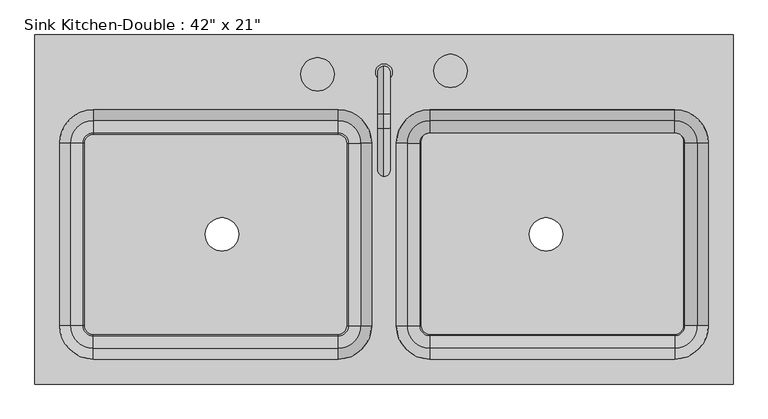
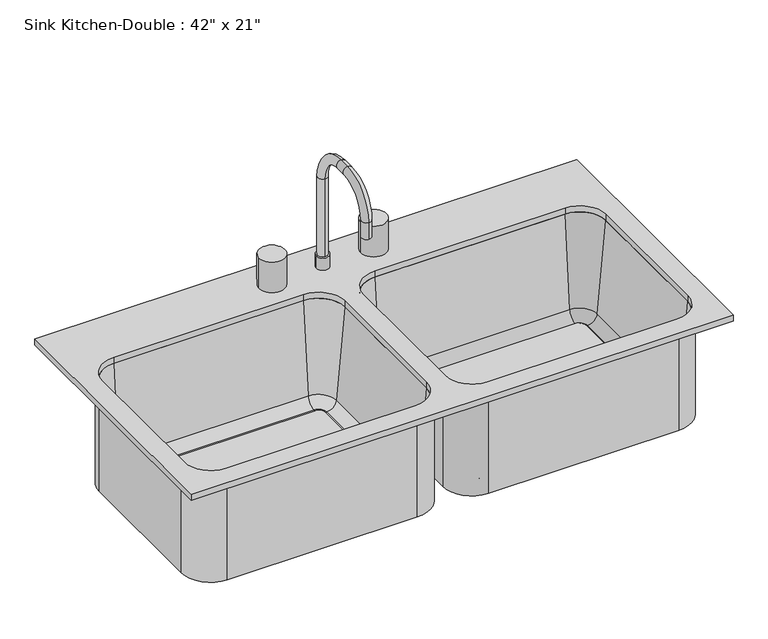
"""IFC4 building model written with IfcOpenShell, lengths in millimetres: flow terminal geometry."""

from ifc_helpers import new_model, si_unit, point, frame, frame_2d, origin, place, context, project, spatial, polyline, circle_curve, ellipse_curve, trimmed, segment, composite_curve, outline, extrude, source, transform, mapped, element, save
from ifc_brep_helpers import plane_surface, cylinder_surface, revolved_surface, advanced_brep


def flow_terminal_88eaddf2(model_context):
    return source(origin(), model_context, "Body", "SolidModel", [
        extrude(outline(composite_curve([segment(trimmed(circle_curve(frame_2d((460.1892406, 106.5338193)), 12.7), [point((460.1892406, 119.2338193))], [point((472.8892406, 106.5338193))], False, "CARTESIAN"), True, "CONTINUOUS"), segment(polyline([(472.8892406, 106.5338193), (472.8892406, -175.4545989)]), True, "CONTINUOUS"), segment(trimmed(circle_curve(frame_2d((460.1892406, -175.4545989)), 12.7), [point((472.8892406, -175.4545989))], [point((460.1892406, -188.1545989))], False, "CARTESIAN"), True, "CONTINUOUS"), segment(polyline([(460.1892406, -188.1545989), (85.5392406, -188.1545989)]), True, "CONTINUOUS"), segment(trimmed(circle_curve(frame_2d((85.5392406, -175.4545989)), 12.7), [point((85.5392406, -188.1545989))], [point((72.8392406, -175.4545989))], False, "CARTESIAN"), True, "CONTINUOUS"), segment(polyline([(72.8392406, -175.4545989), (72.8392406, 106.5338193)]), True, "CONTINUOUS"), segment(trimmed(circle_curve(frame_2d((85.5392406, 106.5338193)), 12.7), [point((72.8392406, 106.5338193))], [point((85.5392406, 119.2338193))], False, "CARTESIAN"), True, "CONTINUOUS"), segment(polyline([(85.5392406, 119.2338193), (460.1892406, 119.2338193)]), True, "CONTINUOUS")], self_intersect=False), holes=[composite_curve([segment(trimmed(circle_curve(frame_2d((263.3392406, -35.7545989)), 25.4), [point((237.9392406, -35.7545989))], [point((288.7392406, -35.7545989))], True, "CARTESIAN"), True, "CONTINUOUS"), segment(trimmed(circle_curve(frame_2d((263.3392406, -35.7545989)), 25.4), [point((288.7392406, -35.7545989))], [point((237.9392406, -35.7545989))], True, "CARTESIAN"), True, "CONTINUOUS")], self_intersect=False)]), frame((0.0, 0.0, 698.5), z_axis=(0.0, 0.0, 1.0), x_axis=(1.0, 0.0, 0.0)), (0.0, 0.0, 1.0), 9.525),
        advanced_brep(
        [(34.7392406, 103.9454011, 914.4), (85.5392406, 154.7454011, 914.4), (85.5392406, 161.0954011, 914.4), (28.3892406, 103.9454011, 914.4), (51.2733134, 103.9454011, 725.4146831), (85.5392406, 138.2113283, 725.4146831), (70.2508224, 103.9454011, 708.025), (85.5392406, 119.2338193, 708.025), (72.8392406, 103.9454011, 708.025), (85.5392406, 116.6454011, 708.025), (72.8392406, 103.9454011, 698.5), (85.5392406, 116.6454011, 698.5), (28.3892406, 103.9454011, 698.5), (85.5392406, 161.0954011, 698.5), (28.3892406, -175.4545989, 914.4), (34.7392406, -175.4545989, 914.4), (51.2733134, -175.4545989, 725.4146831), (70.2508224, -175.4545989, 708.025), (72.8392406, -175.4545989, 708.025), (72.8392406, -175.4545989, 698.5), (28.3892406, -175.4545989, 698.5), (85.5392406, -226.2545989, 914.4), (85.5392406, -232.6045989, 914.4), (85.5392406, -209.7205261, 725.4146831), (85.5392406, -190.7430171, 708.025), (85.5392406, -188.1545989, 708.025), (85.5392406, -188.1545989, 698.5), (85.5392406, -232.6045989, 698.5), (460.1892406, -232.6045989, 914.4), (460.1892406, -226.2545989, 914.4), (460.1892406, -209.7205261, 725.4146831), (460.1892406, -190.7430171, 708.025), (460.1892406, -188.1545989, 708.025), (460.1892406, -188.1545989, 698.5), (460.1892406, -232.6045989, 698.5), (510.9892406, -175.4545989, 914.4), (517.3392406, -175.4545989, 914.4), (494.4551678, -175.4545989, 725.4146831), (475.4776588, -175.4545989, 708.025), (472.8892406, -175.4545989, 708.025), (472.8892406, -175.4545989, 698.5), (517.3392406, -175.4545989, 698.5), (517.3392406, 103.9454011, 914.4), (510.9892406, 103.9454011, 914.4), (494.4551678, 103.9454011, 725.4146831), (475.4776588, 103.9454011, 708.025), (472.8892406, 103.9454011, 708.025), (472.8892406, 103.9454011, 698.5), (517.3392406, 103.9454011, 698.5), (460.1892406, 154.7454011, 914.4), (460.1892406, 161.0954011, 914.4), (460.1892406, 138.2113283, 725.4146831), (460.1892406, 119.2338193, 708.025), (460.1892406, 116.6454011, 708.025), (460.1892406, 116.6454011, 698.5), (460.1892406, 161.0954011, 698.5)],
        [
            (0, 1, circle_curve(frame((85.5392406, 103.9454011, 914.4), z_axis=(0.0, 0.0, -1.0), x_axis=(0.0, 1.0, 0.0)), 50.8)),
            (1, 2),
            (2, 3, circle_curve(frame((85.5392406, 103.9454011, 914.4), z_axis=(0.0, 0.0, 1.0), x_axis=(0.0, 1.0, 0.0)), 57.15)),
            (3, 0),
            (4, 5, circle_curve(frame((85.5392406, 103.9454011, 725.4146831), z_axis=(0.0, 0.0, -1.0), x_axis=(0.0, 1.0, 0.0)), 34.2659272)),
            (5, 1),
            (0, 4),
            (6, 7, circle_curve(frame((85.5392406, 103.9454011, 708.025), z_axis=(0.0, 0.0, -1.0), x_axis=(0.0, 1.0, 0.0)), 15.2884182)),
            (7, 5, circle_curve(frame((85.5392406, 119.2338193, 727.075), z_axis=(1.0, 0.0, 0.0), x_axis=(0.0, -1.0, 0.0)), 19.05)),
            (4, 6, circle_curve(frame((70.2508224, 103.9454011, 727.075), z_axis=(0.0, -1.0, 0.0), x_axis=(1.0, 0.0, 0.0)), 19.05)),
            (8, 9, circle_curve(frame((85.5392406, 103.9454011, 708.025), z_axis=(0.0, 0.0, -1.0), x_axis=(0.0, 1.0, 0.0)), 12.7)),
            (9, 7),
            (6, 8),
            (10, 11, circle_curve(frame((85.5392406, 103.9454011, 698.5), z_axis=(0.0, 0.0, -1.0), x_axis=(0.0, 1.0, 0.0)), 12.7)),
            (11, 9),
            (8, 10),
            (12, 13, circle_curve(frame((85.5392406, 103.9454011, 698.5), z_axis=(0.0, 0.0, -1.0), x_axis=(0.0, 1.0, 0.0)), 57.15)),
            (13, 11),
            (10, 12),
            (2, 13),
            (12, 3),
            (3, 14),
            (14, 15),
            (15, 0),
            (15, 16),
            (16, 4),
            (16, 17, circle_curve(frame((70.2508224, -175.4545989, 727.075), z_axis=(0.0, -1.0, 0.0), x_axis=(1.0, 0.0, 0.0)), 19.05)),
            (17, 6),
            (17, 18),
            (18, 8),
            (18, 19),
            (19, 10),
            (19, 20),
            (20, 12),
            (20, 14),
            (21, 15, circle_curve(frame((85.5392406, -175.4545989, 914.4), z_axis=(0.0, 0.0, -1.0), x_axis=(-1.0, 0.0, 0.0)), 50.8)),
            (14, 22, circle_curve(frame((85.5392406, -175.4545989, 914.4), z_axis=(0.0, 0.0, 1.0), x_axis=(-1.0, 0.0, 0.0)), 57.15)),
            (22, 21),
            (23, 16, circle_curve(frame((85.5392406, -175.4545989, 725.4146831), z_axis=(0.0, 0.0, -1.0), x_axis=(-1.0, 0.0, 0.0)), 34.2659272)),
            (21, 23),
            (24, 17, circle_curve(frame((85.5392406, -175.4545989, 708.025), z_axis=(0.0, 0.0, -1.0), x_axis=(-1.0, 0.0, 0.0)), 15.2884182)),
            (23, 24, circle_curve(frame((85.5392406, -190.7430171, 727.075), z_axis=(1.0, 0.0, 0.0), x_axis=(0.0, 1.0, 0.0)), 19.05)),
            (25, 18, circle_curve(frame((85.5392406, -175.4545989, 708.025), z_axis=(0.0, 0.0, -1.0), x_axis=(-1.0, 0.0, 0.0)), 12.7)),
            (24, 25),
            (26, 19, circle_curve(frame((85.5392406, -175.4545989, 698.5), z_axis=(0.0, 0.0, -1.0), x_axis=(-1.0, 0.0, 0.0)), 12.7)),
            (25, 26),
            (27, 20, circle_curve(frame((85.5392406, -175.4545989, 698.5), z_axis=(0.0, 0.0, -1.0), x_axis=(-1.0, 0.0, 0.0)), 57.15)),
            (26, 27),
            (27, 22),
            (22, 28),
            (28, 29),
            (29, 21),
            (29, 30),
            (30, 23),
            (30, 31, circle_curve(frame((460.1892406, -190.7430171, 727.075), z_axis=(1.0, 0.0, 0.0), x_axis=(0.0, 1.0, 0.0)), 19.05)),
            (31, 24),
            (31, 32),
            (32, 25),
            (32, 33),
            (33, 26),
            (33, 34),
            (34, 27),
            (34, 28),
            (35, 29, circle_curve(frame((460.1892406, -175.4545989, 914.4), z_axis=(0.0, 0.0, -1.0), x_axis=(0.0, -1.0, 0.0)), 50.8)),
            (28, 36, circle_curve(frame((460.1892406, -175.4545989, 914.4), z_axis=(0.0, 0.0, 1.0), x_axis=(0.0, -1.0, 0.0)), 57.15)),
            (36, 35),
            (37, 30, circle_curve(frame((460.1892406, -175.4545989, 725.4146831), z_axis=(0.0, 0.0, -1.0), x_axis=(0.0, -1.0, 0.0)), 34.2659272)),
            (35, 37),
            (38, 31, circle_curve(frame((460.1892406, -175.4545989, 708.025), z_axis=(0.0, 0.0, -1.0), x_axis=(0.0, -1.0, 0.0)), 15.2884182)),
            (37, 38, circle_curve(frame((475.4776588, -175.4545989, 727.075), z_axis=(0.0, 1.0, 0.0), x_axis=(-1.0, 0.0, 0.0)), 19.05)),
            (39, 32, circle_curve(frame((460.1892406, -175.4545989, 708.025), z_axis=(0.0, 0.0, -1.0), x_axis=(0.0, -1.0, 0.0)), 12.7)),
            (38, 39),
            (40, 33, circle_curve(frame((460.1892406, -175.4545989, 698.5), z_axis=(0.0, 0.0, -1.0), x_axis=(0.0, -1.0, 0.0)), 12.7)),
            (39, 40),
            (41, 34, circle_curve(frame((460.1892406, -175.4545989, 698.5), z_axis=(0.0, 0.0, -1.0), x_axis=(0.0, -1.0, 0.0)), 57.15)),
            (40, 41),
            (41, 36),
            (36, 42),
            (42, 43),
            (43, 35),
            (43, 44),
            (44, 37),
            (44, 45, circle_curve(frame((475.4776588, 103.9454011, 727.075), z_axis=(0.0, 1.0, 0.0), x_axis=(-1.0, 0.0, 0.0)), 19.05)),
            (45, 38),
            (45, 46),
            (46, 39),
            (46, 47),
            (47, 40),
            (47, 48),
            (48, 41),
            (48, 42),
            (49, 43, circle_curve(frame((460.1892406, 103.9454011, 914.4), z_axis=(0.0, 0.0, -1.0), x_axis=(1.0, 0.0, 0.0)), 50.8)),
            (42, 50, circle_curve(frame((460.1892406, 103.9454011, 914.4), z_axis=(0.0, 0.0, 1.0), x_axis=(1.0, 0.0, 0.0)), 57.15)),
            (50, 49),
            (51, 44, circle_curve(frame((460.1892406, 103.9454011, 725.4146831), z_axis=(0.0, 0.0, -1.0), x_axis=(1.0, 0.0, 0.0)), 34.2659272)),
            (49, 51),
            (52, 45, circle_curve(frame((460.1892406, 103.9454011, 708.025), z_axis=(0.0, 0.0, -1.0), x_axis=(1.0, 0.0, 0.0)), 15.2884182)),
            (51, 52, circle_curve(frame((460.1892406, 119.2338193, 727.075), z_axis=(-1.0, 0.0, 0.0), x_axis=(0.0, -1.0, 0.0)), 19.05)),
            (53, 46, circle_curve(frame((460.1892406, 103.9454011, 708.025), z_axis=(0.0, 0.0, -1.0), x_axis=(1.0, 0.0, 0.0)), 12.7)),
            (52, 53),
            (54, 47, circle_curve(frame((460.1892406, 103.9454011, 698.5), z_axis=(0.0, 0.0, -1.0), x_axis=(1.0, 0.0, 0.0)), 12.7)),
            (53, 54),
            (55, 48, circle_curve(frame((460.1892406, 103.9454011, 698.5), z_axis=(0.0, 0.0, -1.0), x_axis=(1.0, 0.0, 0.0)), 57.15)),
            (54, 55),
            (55, 50),
            (50, 2),
            (1, 49),
            (5, 51),
            (7, 52),
            (9, 53),
            (11, 54),
            (13, 55),
        ],
        [
            plane_surface(frame((85.5392406, 103.9454011, 914.4), z_axis=(0.0, 0.0, 1.0), x_axis=(0.0, 1.0, 0.0))),
            revolved_surface(polyline([(85.5392406, 154.7454011, 914.4), (85.5392406, 138.2113283, 725.4146831)]), (85.5392406, 103.9454011, 0.0), (0.0, 0.0, 1.0)),
            revolved_surface(trimmed(ellipse_curve(frame((85.5392406, 119.2338193, 727.075), z_axis=(-1.0, 0.0, 0.0), x_axis=(0.0, -1.0, 0.0)), 19.05, 19.05), [point((85.5392406, 138.2113283, 725.4146831))], [point((85.5392406, 119.2338193, 708.025))], True, "CARTESIAN"), (85.5392406, 103.9454011, 0.0), (0.0, 0.0, 1.0)),
            plane_surface(frame((85.5392406, 103.9454011, 708.025), z_axis=(0.0, 0.0, 1.0), x_axis=(0.0, 1.0, 0.0))),
            revolved_surface(polyline([(85.5392406, 116.6454011, 708.025), (85.5392406, 116.6454011, 698.5)]), (85.5392406, 103.9454011, 0.0), (0.0, 0.0, 1.0)),
            plane_surface(frame((85.5392406, 103.9454011, 698.5), z_axis=(0.0, 0.0, -1.0), x_axis=(0.0, 1.0, 0.0))),
            cylinder_surface(frame((85.5392406, 103.9454011, 0.0), z_axis=(0.0, 0.0, 1.0), x_axis=(0.0, 1.0, 0.0)), 57.15),
            plane_surface(frame((28.3892406, 103.9454011, 914.4), z_axis=(0.0, 0.0, 1.0), x_axis=(0.0, -1.0, 0.0))),
            plane_surface(frame((34.7392406, 103.9454011, 914.4), z_axis=(0.996194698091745, 0.0, 0.08715574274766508), x_axis=(0.0, -1.0, 0.0))),
            revolved_surface(polyline([(89.3008224, -175.45459889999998, 727.075), (89.3008224, 103.9454011, 727.075)]), (70.2508224, 103.9454011, 727.075), (0.0, -1.0, 0.0)),
            plane_surface(frame((70.2508224, 103.9454011, 708.025), z_axis=(0.0, 0.0, 1.0), x_axis=(0.0, -1.0, 0.0))),
            plane_surface(frame((72.8392406, 103.9454011, 708.025), z_axis=(1.0, 0.0, 0.0), x_axis=(0.0, -1.0, 0.0))),
            plane_surface(frame((72.8392406, 103.9454011, 698.5), z_axis=(0.0, 0.0, -1.0), x_axis=(0.0, -1.0, 0.0))),
            plane_surface(frame((28.3892406, 103.9454011, 698.5), z_axis=(-1.0, 0.0, 0.0), x_axis=(0.0, -1.0, 0.0))),
            plane_surface(frame((85.5392406, -175.4545989, 914.4), z_axis=(0.0, 0.0, 1.0), x_axis=(-1.0, 0.0, 0.0))),
            revolved_surface(polyline([(34.7392406, -175.4545989, 914.4), (51.2733134, -175.4545989, 725.4146831)]), (85.5392406, -175.4545989, 0.0), (0.0, 0.0, 1.0)),
            revolved_surface(trimmed(ellipse_curve(frame((70.2508224, -175.4545989, 727.075), z_axis=(0.0, -1.0, 0.0), x_axis=(1.0, 0.0, 0.0)), 19.05, 19.05), [point((51.2733134, -175.4545989, 725.4146831))], [point((70.2508224, -175.4545989, 708.025))], True, "CARTESIAN"), (85.5392406, -175.4545989, 0.0), (0.0, 0.0, 1.0)),
            plane_surface(frame((85.5392406, -175.4545989, 708.025), z_axis=(0.0, 0.0, 1.0), x_axis=(-1.0, 0.0, 0.0))),
            revolved_surface(polyline([(72.8392406, -175.4545989, 708.025), (72.8392406, -175.4545989, 698.5)]), (85.5392406, -175.4545989, 0.0), (0.0, 0.0, 1.0)),
            plane_surface(frame((85.5392406, -175.4545989, 698.5), z_axis=(0.0, 0.0, -1.0), x_axis=(-1.0, 0.0, 0.0))),
            cylinder_surface(frame((85.5392406, -175.4545989, 0.0), z_axis=(0.0, 0.0, 1.0), x_axis=(-1.0, 0.0, 0.0)), 57.15),
            plane_surface(frame((85.5392406, -232.6045989, 914.4), z_axis=(0.0, 0.0, 1.0), x_axis=(1.0, 0.0, 0.0))),
            plane_surface(frame((85.5392406, -226.2545989, 914.4), z_axis=(0.0, 0.996194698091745, 0.08715574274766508), x_axis=(1.0, 0.0, 0.0))),
            revolved_surface(polyline([(460.18924059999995, -171.6930171, 727.075), (85.5392406, -171.6930171, 727.075)]), (85.5392406, -190.7430171, 727.075), (1.0, 0.0, 0.0)),
            plane_surface(frame((85.5392406, -190.7430171, 708.025), z_axis=(0.0, 0.0, 1.0), x_axis=(1.0, 0.0, 0.0))),
            plane_surface(frame((85.5392406, -188.1545989, 708.025), z_axis=(0.0, 1.0, 0.0), x_axis=(1.0, 0.0, 0.0))),
            plane_surface(frame((85.5392406, -188.1545989, 698.5), z_axis=(0.0, 0.0, -1.0), x_axis=(1.0, 0.0, 0.0))),
            plane_surface(frame((85.5392406, -232.6045989, 698.5), z_axis=(0.0, -1.0, 0.0), x_axis=(1.0, 0.0, 0.0))),
            plane_surface(frame((460.1892406, -175.4545989, 914.4), z_axis=(0.0, 0.0, 1.0), x_axis=(0.0, -1.0, 0.0))),
            revolved_surface(polyline([(460.1892406, -226.2545989, 914.4), (460.1892406, -209.7205261, 725.4146831)]), (460.1892406, -175.4545989, 0.0), (0.0, 0.0, 1.0)),
            revolved_surface(trimmed(ellipse_curve(frame((460.1892406, -190.7430171, 727.075), z_axis=(1.0, 0.0, 0.0), x_axis=(0.0, 1.0, 0.0)), 19.05, 19.05), [point((460.1892406, -209.7205261, 725.4146831))], [point((460.1892406, -190.7430171, 708.025))], True, "CARTESIAN"), (460.1892406, -175.4545989, 0.0), (0.0, 0.0, 1.0)),
            plane_surface(frame((460.1892406, -175.4545989, 708.025), z_axis=(0.0, 0.0, 1.0), x_axis=(0.0, -1.0, 0.0))),
            revolved_surface(polyline([(460.1892406, -188.1545989, 708.025), (460.1892406, -188.1545989, 698.5)]), (460.1892406, -175.4545989, 0.0), (0.0, 0.0, 1.0)),
            plane_surface(frame((460.1892406, -175.4545989, 698.5), z_axis=(0.0, 0.0, -1.0), x_axis=(0.0, -1.0, 0.0))),
            cylinder_surface(frame((460.1892406, -175.4545989, 0.0), z_axis=(0.0, 0.0, 1.0), x_axis=(0.0, -1.0, 0.0)), 57.15),
            plane_surface(frame((517.3392406, -175.4545989, 914.4), z_axis=(0.0, 0.0, 1.0), x_axis=(0.0, 1.0, 0.0))),
            plane_surface(frame((510.9892406, -175.4545989, 914.4), z_axis=(-0.996194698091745, 0.0, 0.08715574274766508), x_axis=(0.0, 1.0, 0.0))),
            revolved_surface(polyline([(456.42765879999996, 103.94540109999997, 727.075), (456.42765879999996, -175.4545989, 727.075)]), (475.4776588, -175.4545989, 727.075), (0.0, 1.0, 0.0)),
            plane_surface(frame((475.4776588, -175.4545989, 708.025), z_axis=(0.0, 0.0, 1.0), x_axis=(0.0, 1.0, 0.0))),
            plane_surface(frame((472.8892406, -175.4545989, 708.025), z_axis=(-1.0, 0.0, 0.0), x_axis=(0.0, 1.0, 0.0))),
            plane_surface(frame((472.8892406, -175.4545989, 698.5), z_axis=(0.0, 0.0, -1.0), x_axis=(0.0, 1.0, 0.0))),
            plane_surface(frame((517.3392406, -175.4545989, 698.5), z_axis=(1.0, 0.0, 0.0), x_axis=(0.0, 1.0, 0.0))),
            plane_surface(frame((460.1892406, 103.9454011, 914.4), z_axis=(0.0, 0.0, 1.0), x_axis=(1.0, 0.0, 0.0))),
            revolved_surface(polyline([(510.9892406, 103.9454011, 914.4), (494.4551678, 103.9454011, 725.4146831)]), (460.1892406, 103.9454011, 0.0), (0.0, 0.0, 1.0)),
            revolved_surface(trimmed(ellipse_curve(frame((475.4776588, 103.9454011, 727.075), z_axis=(0.0, 1.0, 0.0), x_axis=(-1.0, 0.0, 0.0)), 19.05, 19.05), [point((494.4551678, 103.9454011, 725.4146831))], [point((475.4776588, 103.9454011, 708.025))], True, "CARTESIAN"), (460.1892406, 103.9454011, 0.0), (0.0, 0.0, 1.0)),
            plane_surface(frame((460.1892406, 103.9454011, 708.025), z_axis=(0.0, 0.0, 1.0), x_axis=(1.0, 0.0, 0.0))),
            revolved_surface(polyline([(472.8892406, 103.9454011, 708.025), (472.8892406, 103.9454011, 698.5)]), (460.1892406, 103.9454011, 0.0), (0.0, 0.0, 1.0)),
            plane_surface(frame((460.1892406, 103.9454011, 698.5), z_axis=(0.0, 0.0, -1.0), x_axis=(1.0, 0.0, 0.0))),
            cylinder_surface(frame((460.1892406, 103.9454011, 0.0), z_axis=(0.0, 0.0, 1.0), x_axis=(1.0, 0.0, 0.0)), 57.15),
            plane_surface(frame((460.1892406, 161.0954011, 914.4), z_axis=(0.0, 0.0, 1.0), x_axis=(-1.0, 0.0, 0.0))),
            plane_surface(frame((460.1892406, 154.7454011, 914.4), z_axis=(0.0, -0.996194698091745, 0.08715574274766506), x_axis=(-1.0, 0.0, 0.0))),
            revolved_surface(polyline([(85.53924060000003, 100.1838193, 727.075), (460.1892406, 100.1838193, 727.075)]), (460.1892406, 119.2338193, 727.075), (-1.0, 0.0, 0.0)),
            plane_surface(frame((460.1892406, 119.2338193, 708.025), z_axis=(0.0, 0.0, 1.0), x_axis=(-1.0, 0.0, 0.0))),
            plane_surface(frame((460.1892406, 116.6454011, 708.025), z_axis=(0.0, -1.0, 0.0), x_axis=(-1.0, 0.0, 0.0))),
            plane_surface(frame((460.1892406, 116.6454011, 698.5), z_axis=(0.0, 0.0, -1.0), x_axis=(-1.0, 0.0, 0.0))),
            plane_surface(frame((460.1892406, 161.0954011, 698.5), z_axis=(0.0, 1.0, 0.0), x_axis=(-1.0, 0.0, 0.0))),
        ],
        [
            (0, [[1, 2, 3, 4]]),
            (1, [[5, 6, -1, 7]]),
            (2, [[8, 9, -5, 10]]),
            (3, [[11, 12, -8, 13]]),
            (4, [[14, 15, -11, 16]]),
            (5, [[17, 18, -14, 19]]),
            (6, [[-3, 20, -17, 21]]),
            (7, [[-4, 22, 23, 24]]),
            (8, [[-7, -24, 25, 26]]),
            (9, [[-10, -26, 27, 28]]),
            (10, [[-13, -28, 29, 30]]),
            (11, [[-16, -30, 31, 32]]),
            (12, [[-19, -32, 33, 34]]),
            (13, [[-21, -34, 35, -22]]),
            (14, [[36, -23, 37, 38]]),
            (15, [[39, -25, -36, 40]]),
            (16, [[41, -27, -39, 42]]),
            (17, [[43, -29, -41, 44]]),
            (18, [[45, -31, -43, 46]]),
            (19, [[47, -33, -45, 48]]),
            (20, [[-37, -35, -47, 49]]),
            (21, [[-38, 50, 51, 52]]),
            (22, [[-40, -52, 53, 54]]),
            (23, [[-42, -54, 55, 56]]),
            (24, [[-44, -56, 57, 58]]),
            (25, [[-46, -58, 59, 60]]),
            (26, [[-48, -60, 61, 62]]),
            (27, [[-49, -62, 63, -50]]),
            (28, [[64, -51, 65, 66]]),
            (29, [[67, -53, -64, 68]]),
            (30, [[69, -55, -67, 70]]),
            (31, [[71, -57, -69, 72]]),
            (32, [[73, -59, -71, 74]]),
            (33, [[75, -61, -73, 76]]),
            (34, [[-65, -63, -75, 77]]),
            (35, [[-66, 78, 79, 80]]),
            (36, [[-68, -80, 81, 82]]),
            (37, [[-70, -82, 83, 84]]),
            (38, [[-72, -84, 85, 86]]),
            (39, [[-74, -86, 87, 88]]),
            (40, [[-76, -88, 89, 90]]),
            (41, [[-77, -90, 91, -78]]),
            (42, [[92, -79, 93, 94]]),
            (43, [[95, -81, -92, 96]]),
            (44, [[97, -83, -95, 98]]),
            (45, [[99, -85, -97, 100]]),
            (46, [[101, -87, -99, 102]]),
            (47, [[103, -89, -101, 104]]),
            (48, [[-93, -91, -103, 105]]),
            (49, [[-94, 106, -2, 107]]),
            (50, [[-96, -107, -6, 108]]),
            (51, [[-98, -108, -9, 109]]),
            (52, [[-100, -109, -12, 110]]),
            (53, [[-102, -110, -15, 111]]),
            (54, [[-104, -111, -18, 112]]),
            (55, [[-105, -112, -20, -106]]),
        ],
    ),
        extrude(outline(composite_curve([segment(trimmed(circle_curve(frame_2d((15.6892406, 211.8954011)), 12.7), [point((2.9892406, 211.8954011))], [point((28.3892406, 211.8954011))], False, "CARTESIAN"), True, "CONTINUOUS"), segment(trimmed(circle_curve(frame_2d((15.6892406, 211.8954011)), 12.7), [point((28.3892406, 211.8954011))], [point((2.9892406, 211.8954011))], False, "CARTESIAN"), True, "CONTINUOUS")], self_intersect=False)), frame((0.0, 0.0, 927.1), z_axis=(0.0, 0.0, 1.0), x_axis=(1.0, 0.0, 0.0)), (0.0, 0.0, 1.0), 25.4),
        advanced_brep(
        [(15.6892406, 221.4204011, 927.1), (15.6892406, 202.3704011, 927.1), (15.6892406, 221.4204011, 1114.425), (15.6892406, 202.3704011, 1114.425), (15.6892406, 148.3954011, 1168.4), (15.6892406, 148.3954011, 1187.45), (15.6892406, 126.1704011, 1187.45), (15.6892406, 126.1704011, 1168.4), (15.6892406, 72.1954011, 1114.425), (15.6892406, 53.1454011, 1114.425), (15.6892406, 53.1454011, 1079.5), (15.6892406, 72.1954011, 1079.5)],
        [
            (0, 1, circle_curve(frame((15.6892406, 211.8954011, 927.1), z_axis=(0.0, 0.0, -1.0), x_axis=(0.0, -1.0, 0.0)), 9.525)),
            (1, 0, circle_curve(frame((15.6892406, 211.8954011, 927.1), z_axis=(0.0, 0.0, -1.0), x_axis=(0.0, -1.0, 0.0)), 9.525)),
            (0, 2),
            (2, 3, circle_curve(frame((15.6892406, 211.8954011, 1114.425), z_axis=(0.0, 0.0, -1.0), x_axis=(0.0, -1.0, 0.0)), 9.525)),
            (3, 1),
            (3, 2, circle_curve(frame((15.6892406, 211.8954011, 1114.425), z_axis=(0.0, 0.0, -1.0), x_axis=(0.0, -1.0, 0.0)), 9.525)),
            (4, 3, circle_curve(frame((15.6892406, 148.3954011, 1114.425), z_axis=(-1.0, 0.0, 0.0), x_axis=(0.0, 1.0, 0.0)), 53.975)),
            (2, 5, circle_curve(frame((15.6892406, 148.3954011, 1114.425), z_axis=(1.0, 0.0, 0.0), x_axis=(0.0, 1.0, 0.0)), 73.025)),
            (5, 4, circle_curve(frame((15.6892406, 148.3954011, 1177.925), z_axis=(0.0, 1.0, 0.0), x_axis=(0.0, 0.0, -1.0)), 9.525)),
            (4, 5, circle_curve(frame((15.6892406, 148.3954011, 1177.925), z_axis=(0.0, 1.0, 0.0), x_axis=(0.0, 0.0, -1.0)), 9.525)),
            (5, 6),
            (6, 7, circle_curve(frame((15.6892406, 126.1704011, 1177.925), z_axis=(0.0, 1.0, 0.0), x_axis=(0.0, 0.0, -1.0)), 9.525)),
            (7, 4),
            (7, 6, circle_curve(frame((15.6892406, 126.1704011, 1177.925), z_axis=(0.0, 1.0, 0.0), x_axis=(0.0, 0.0, -1.0)), 9.525)),
            (8, 7, circle_curve(frame((15.6892406, 126.1704011, 1114.425), z_axis=(-1.0, 0.0, 0.0), x_axis=(0.0, 0.0, 1.0)), 53.975)),
            (6, 9, circle_curve(frame((15.6892406, 126.1704011, 1114.425), z_axis=(1.0, 0.0, 0.0), x_axis=(0.0, 0.0, 1.0)), 73.025)),
            (9, 8, circle_curve(frame((15.6892406, 62.6704011, 1114.425), z_axis=(0.0, 0.0, 1.0), x_axis=(0.0, 1.0, 0.0)), 9.525)),
            (8, 9, circle_curve(frame((15.6892406, 62.6704011, 1114.425), z_axis=(0.0, 0.0, 1.0), x_axis=(0.0, 1.0, 0.0)), 9.525)),
            (10, 11, circle_curve(frame((15.6892406, 62.6704011, 1079.5), z_axis=(0.0, 0.0, -1.0), x_axis=(0.0, 1.0, 0.0)), 9.525)),
            (11, 10, circle_curve(frame((15.6892406, 62.6704011, 1079.5), z_axis=(0.0, 0.0, -1.0), x_axis=(0.0, 1.0, 0.0)), 9.525)),
            (9, 10),
            (11, 8),
        ],
        [
            plane_surface(frame((15.6892406, 202.3704011, 927.1), z_axis=(0.0, 0.0, -1.0), x_axis=(1.0, 0.0, 0.0))),
            cylinder_surface(frame((15.6892406, 211.8954011, 927.1), z_axis=(0.0, 0.0, -1.0), x_axis=(0.0, -1.0, 0.0)), 9.525),
            revolved_surface(trimmed(ellipse_curve(frame((15.6892406, 211.8954011, 1114.425), z_axis=(0.0, 0.0, -1.0), x_axis=(0.0, -1.0, 0.0)), 9.525, 9.525), [point((15.6892406, 221.4204011, 1114.425))], [point((15.6892406, 202.3704011, 1114.425))], True, "CARTESIAN"), (15.6892406, 148.3954011, 1114.425), (1.0, 0.0, 0.0)),
            revolved_surface(trimmed(ellipse_curve(frame((15.6892406, 211.8954011, 1114.425), z_axis=(0.0, 0.0, -1.0), x_axis=(0.0, -1.0, 0.0)), 9.525, 9.525), [point((15.6892406, 202.3704011, 1114.425))], [point((15.6892406, 221.4204011, 1114.425))], True, "CARTESIAN"), (15.6892406, 148.3954011, 1114.425), (1.0, 0.0, 0.0)),
            cylinder_surface(frame((15.6892406, 148.3954011, 1177.925), z_axis=(0.0, 1.0, 0.0), x_axis=(0.0, 0.0, -1.0)), 9.525),
            revolved_surface(trimmed(ellipse_curve(frame((15.6892406, 126.1704011, 1177.925), z_axis=(0.0, 1.0, 0.0), x_axis=(0.0, 0.0, -1.0)), 9.525, 9.525), [point((15.6892406, 126.1704011, 1187.45))], [point((15.6892406, 126.1704011, 1168.4))], True, "CARTESIAN"), (15.6892406, 126.1704011, 1114.425), (1.0, 0.0, 0.0)),
            revolved_surface(trimmed(ellipse_curve(frame((15.6892406, 126.1704011, 1177.925), z_axis=(0.0, 1.0, 0.0), x_axis=(0.0, 0.0, -1.0)), 9.525, 9.525), [point((15.6892406, 126.1704011, 1168.4))], [point((15.6892406, 126.1704011, 1187.45))], True, "CARTESIAN"), (15.6892406, 126.1704011, 1114.425), (1.0, 0.0, 0.0)),
            plane_surface(frame((15.6892406, 53.1454011, 1079.5), z_axis=(0.0, 0.0, -1.0), x_axis=(-1.0, 0.0, 0.0))),
            cylinder_surface(frame((15.6892406, 62.6704011, 1114.425), z_axis=(0.0, 0.0, 1.0), x_axis=(0.0, 1.0, 0.0)), 9.525),
        ],
        [
            (0, [[1, 2]]),
            (1, [[-1, 3, 4, 5]]),
            (1, [[-2, -5, 6, -3]]),
            (2, [[7, -4, 8, 9]]),
            (3, [[-8, -6, -7, 10]]),
            (4, [[-9, 11, 12, 13]]),
            (4, [[-10, -13, 14, -11]]),
            (5, [[15, -12, 16, 17]]),
            (6, [[-16, -14, -15, 18]]),
            (7, [[19, 20]]),
            (8, [[-17, 21, -20, 22]]),
            (8, [[-18, -22, -19, -21]]),
        ],
    ),
        extrude(outline(composite_curve([segment(trimmed(circle_curve(frame_2d((-85.9107594, 208.8166076)), 25.4), [point((-111.3107594, 208.8166076))], [point((-60.5107594, 208.8166076))], False, "CARTESIAN"), True, "CONTINUOUS"), segment(trimmed(circle_curve(frame_2d((-85.9107594, 208.8166076)), 25.4), [point((-60.5107594, 208.8166076))], [point((-111.3107594, 208.8166076))], False, "CARTESIAN"), True, "CONTINUOUS")], self_intersect=False)), frame((0.0, 0.0, 927.1), z_axis=(0.0, 0.0, 1.0), x_axis=(1.0, 0.0, 0.0)), (0.0, 0.0, 1.0), 63.5),
        extrude(outline(composite_curve([segment(trimmed(circle_curve(frame_2d((117.2892406, 214.0133323)), 25.4), [point((91.8892406, 214.0133323))], [point((142.6892406, 214.0133323))], False, "CARTESIAN"), True, "CONTINUOUS"), segment(trimmed(circle_curve(frame_2d((117.2892406, 214.0133323)), 25.4), [point((142.6892406, 214.0133323))], [point((91.8892406, 214.0133323))], False, "CARTESIAN"), True, "CONTINUOUS")], self_intersect=False)), frame((0.0, 0.0, 927.1), z_axis=(0.0, 0.0, 1.0), x_axis=(1.0, 0.0, 0.0)), (0.0, 0.0, 1.0), 63.5),
        extrude(outline(composite_curve([segment(trimmed(circle_curve(frame_2d((-54.1607594, 103.9454011)), 12.7), [point((-54.1607594, 116.6454011))], [point((-41.4607594, 103.9454011))], False, "CARTESIAN"), True, "CONTINUOUS"), segment(polyline([(-41.4607594, 103.9454011), (-41.4607594, -175.4545989)]), True, "CONTINUOUS"), segment(trimmed(circle_curve(frame_2d((-54.1607594, -175.4545989)), 12.7), [point((-41.4607594, -175.4545989))], [point((-54.1607594, -188.1545989))], False, "CARTESIAN"), True, "CONTINUOUS"), segment(polyline([(-54.1607594, -188.1545989), (-428.8107594, -188.1545989)]), True, "CONTINUOUS"), segment(trimmed(circle_curve(frame_2d((-428.8107594, -175.4545989)), 12.7), [point((-428.8107594, -188.1545989))], [point((-441.5107594, -175.4545989))], False, "CARTESIAN"), True, "CONTINUOUS"), segment(polyline([(-441.5107594, -175.4545989), (-441.5107594, 103.9454011)]), True, "CONTINUOUS"), segment(trimmed(circle_curve(frame_2d((-428.8107594, 103.9454011)), 12.7), [point((-441.5107594, 103.9454011))], [point((-428.8107594, 116.6454011))], False, "CARTESIAN"), True, "CONTINUOUS"), segment(polyline([(-428.8107594, 116.6454011), (-54.1607594, 116.6454011)]), True, "CONTINUOUS")], self_intersect=False), holes=[composite_curve([segment(trimmed(circle_curve(frame_2d((-231.9607594, -35.7545989)), 25.4), [point((-257.3607594, -35.7545989))], [point((-206.5607594, -35.7545989))], True, "CARTESIAN"), True, "CONTINUOUS"), segment(trimmed(circle_curve(frame_2d((-231.9607594, -35.7545989)), 25.4), [point((-206.5607594, -35.7545989))], [point((-257.3607594, -35.7545989))], True, "CARTESIAN"), True, "CONTINUOUS")], self_intersect=False)]), frame((0.0, 0.0, 698.5), z_axis=(0.0, 0.0, 1.0), x_axis=(1.0, 0.0, 0.0)), (0.0, 0.0, 1.0), 9.525),
        advanced_brep(
        [(2.9892406, 103.9454011, 698.5), (-54.1607594, 161.0954011, 698.5), (-54.1607594, 161.0954011, 914.4), (2.9892406, 103.9454011, 914.4), (-41.4607594, 103.9454011, 698.5), (-54.1607594, 116.6454011, 698.5), (-41.4607594, 103.9454011, 708.025), (-54.1607594, 116.6454011, 708.025), (-38.8723412, 103.9454011, 708.025), (-54.1607594, 119.2338193, 708.025), (-19.8948322, 103.9454011, 725.4146831), (-54.1607594, 138.2113283, 725.4146831), (-3.3607594, 103.9454011, 914.4), (-54.1607594, 154.7454011, 914.4), (2.9892406, -175.4545989, 914.4), (2.9892406, -175.4545989, 698.5), (-41.4607594, -175.4545989, 698.5), (-41.4607594, -175.4545989, 708.025), (-38.8723412, -175.4545989, 708.025), (-19.8948322, -175.4545989, 725.4146831), (-3.3607594, -175.4545989, 914.4), (-54.1607594, -232.6045989, 698.5), (-54.1607594, -232.6045989, 914.4), (-54.1607594, -188.1545989, 698.5), (-54.1607594, -188.1545989, 708.025), (-54.1607594, -190.7430171, 708.025), (-54.1607594, -209.7205261, 725.4146831), (-54.1607594, -226.2545989, 914.4), (-428.8107594, -232.6045989, 914.4), (-428.8107594, -232.6045989, 698.5), (-428.8107594, -188.1545989, 698.5), (-428.8107594, -188.1545989, 708.025), (-428.8107594, -190.7430171, 708.025), (-428.8107594, -209.7205261, 725.4146831), (-428.8107594, -226.2545989, 914.4), (-485.9607594, -175.4545989, 698.5), (-485.9607594, -175.4545989, 914.4), (-441.5107594, -175.4545989, 698.5), (-441.5107594, -175.4545989, 708.025), (-444.0991776, -175.4545989, 708.025), (-463.0766866, -175.4545989, 725.4146831), (-479.6107594, -175.4545989, 914.4), (-485.9607594, 103.9454011, 914.4), (-485.9607594, 103.9454011, 698.5), (-441.5107594, 103.9454011, 698.5), (-441.5107594, 103.9454011, 708.025), (-444.0991776, 103.9454011, 708.025), (-463.0766866, 103.9454011, 725.4146831), (-479.6107594, 103.9454011, 914.4), (-428.8107594, 161.0954011, 698.5), (-428.8107594, 161.0954011, 914.4), (-428.8107594, 116.6454011, 698.5), (-428.8107594, 116.6454011, 708.025), (-428.8107594, 119.2338193, 708.025), (-428.8107594, 138.2113283, 725.4146831), (-428.8107594, 154.7454011, 914.4)],
        [
            (0, 1, circle_curve(frame((-54.1607594, 103.9454011, 698.5), z_axis=(0.0, 0.0, 1.0), x_axis=(0.0, 1.0, 0.0)), 57.15)),
            (1, 2),
            (2, 3, circle_curve(frame((-54.1607594, 103.9454011, 914.4), z_axis=(0.0, 0.0, -1.0), x_axis=(0.0, 1.0, 0.0)), 57.15)),
            (3, 0),
            (4, 5, circle_curve(frame((-54.1607594, 103.9454011, 698.5), z_axis=(0.0, 0.0, 1.0), x_axis=(0.0, 1.0, 0.0)), 12.7)),
            (5, 1),
            (0, 4),
            (6, 7, circle_curve(frame((-54.1607594, 103.9454011, 708.025), z_axis=(0.0, 0.0, 1.0), x_axis=(0.0, 1.0, 0.0)), 12.7)),
            (7, 5),
            (4, 6),
            (8, 9, circle_curve(frame((-54.1607594, 103.9454011, 708.025), z_axis=(0.0, 0.0, 1.0), x_axis=(0.0, 1.0, 0.0)), 15.2884182)),
            (9, 7),
            (6, 8),
            (10, 11, circle_curve(frame((-54.1607594, 103.9454011, 725.4146831), z_axis=(0.0, 0.0, 1.0), x_axis=(0.0, 1.0, 0.0)), 34.2659272)),
            (11, 9, circle_curve(frame((-54.1607594, 119.2338193, 727.075), z_axis=(-1.0, 0.0, 0.0), x_axis=(0.0, 1.0, 0.0)), 19.05)),
            (8, 10, circle_curve(frame((-38.8723412, 103.9454011, 727.075), z_axis=(0.0, -1.0, 0.0), x_axis=(1.0, 0.0, 0.0)), 19.05)),
            (12, 13, circle_curve(frame((-54.1607594, 103.9454011, 914.4), z_axis=(0.0, 0.0, 1.0), x_axis=(0.0, 1.0, 0.0)), 50.8)),
            (13, 11),
            (10, 12),
            (2, 13),
            (12, 3),
            (3, 14),
            (14, 15),
            (15, 0),
            (15, 16),
            (16, 4),
            (16, 17),
            (17, 6),
            (17, 18),
            (18, 8),
            (18, 19, circle_curve(frame((-38.8723412, -175.4545989, 727.075), z_axis=(0.0, -1.0, 0.0), x_axis=(1.0, 0.0, 0.0)), 19.05)),
            (19, 10),
            (19, 20),
            (20, 12),
            (20, 14),
            (21, 15, circle_curve(frame((-54.1607594, -175.4545989, 698.5), z_axis=(0.0, 0.0, 1.0), x_axis=(1.0, 0.0, 0.0)), 57.15)),
            (14, 22, circle_curve(frame((-54.1607594, -175.4545989, 914.4), z_axis=(0.0, 0.0, -1.0), x_axis=(1.0, 0.0, 0.0)), 57.15)),
            (22, 21),
            (23, 16, circle_curve(frame((-54.1607594, -175.4545989, 698.5), z_axis=(0.0, 0.0, 1.0), x_axis=(1.0, 0.0, 0.0)), 12.7)),
            (21, 23),
            (24, 17, circle_curve(frame((-54.1607594, -175.4545989, 708.025), z_axis=(0.0, 0.0, 1.0), x_axis=(1.0, 0.0, 0.0)), 12.7)),
            (23, 24),
            (25, 18, circle_curve(frame((-54.1607594, -175.4545989, 708.025), z_axis=(0.0, 0.0, 1.0), x_axis=(1.0, 0.0, 0.0)), 15.2884182)),
            (24, 25),
            (26, 19, circle_curve(frame((-54.1607594, -175.4545989, 725.4146831), z_axis=(0.0, 0.0, 1.0), x_axis=(1.0, 0.0, 0.0)), 34.2659272)),
            (25, 26, circle_curve(frame((-54.1607594, -190.7430171, 727.075), z_axis=(-1.0, 0.0, 0.0), x_axis=(0.0, -1.0, 0.0)), 19.05)),
            (27, 20, circle_curve(frame((-54.1607594, -175.4545989, 914.4), z_axis=(0.0, 0.0, 1.0), x_axis=(1.0, 0.0, 0.0)), 50.8)),
            (26, 27),
            (27, 22),
            (22, 28),
            (28, 29),
            (29, 21),
            (29, 30),
            (30, 23),
            (30, 31),
            (31, 24),
            (31, 32),
            (32, 25),
            (32, 33, circle_curve(frame((-428.8107594, -190.7430171, 727.075), z_axis=(-1.0, 0.0, 0.0), x_axis=(0.0, -1.0, 0.0)), 19.05)),
            (33, 26),
            (33, 34),
            (34, 27),
            (34, 28),
            (35, 29, circle_curve(frame((-428.8107594, -175.4545989, 698.5), z_axis=(0.0, 0.0, 1.0), x_axis=(0.0, -1.0, 0.0)), 57.15)),
            (28, 36, circle_curve(frame((-428.8107594, -175.4545989, 914.4), z_axis=(0.0, 0.0, -1.0), x_axis=(0.0, -1.0, 0.0)), 57.15)),
            (36, 35),
            (37, 30, circle_curve(frame((-428.8107594, -175.4545989, 698.5), z_axis=(0.0, 0.0, 1.0), x_axis=(0.0, -1.0, 0.0)), 12.7)),
            (35, 37),
            (38, 31, circle_curve(frame((-428.8107594, -175.4545989, 708.025), z_axis=(0.0, 0.0, 1.0), x_axis=(0.0, -1.0, 0.0)), 12.7)),
            (37, 38),
            (39, 32, circle_curve(frame((-428.8107594, -175.4545989, 708.025), z_axis=(0.0, 0.0, 1.0), x_axis=(0.0, -1.0, 0.0)), 15.2884182)),
            (38, 39),
            (40, 33, circle_curve(frame((-428.8107594, -175.4545989, 725.4146831), z_axis=(0.0, 0.0, 1.0), x_axis=(0.0, -1.0, 0.0)), 34.2659272)),
            (39, 40, circle_curve(frame((-444.0991776, -175.4545989, 727.075), z_axis=(0.0, 1.0, 0.0), x_axis=(-1.0, 0.0, 0.0)), 19.05)),
            (41, 34, circle_curve(frame((-428.8107594, -175.4545989, 914.4), z_axis=(0.0, 0.0, 1.0), x_axis=(0.0, -1.0, 0.0)), 50.8)),
            (40, 41),
            (41, 36),
            (36, 42),
            (42, 43),
            (43, 35),
            (43, 44),
            (44, 37),
            (44, 45),
            (45, 38),
            (45, 46),
            (46, 39),
            (46, 47, circle_curve(frame((-444.0991776, 103.9454011, 727.075), z_axis=(0.0, 1.0, 0.0), x_axis=(-1.0, 0.0, 0.0)), 19.05)),
            (47, 40),
            (47, 48),
            (48, 41),
            (48, 42),
            (49, 43, circle_curve(frame((-428.8107594, 103.9454011, 698.5), z_axis=(0.0, 0.0, 1.0), x_axis=(-1.0, 0.0, 0.0)), 57.15)),
            (42, 50, circle_curve(frame((-428.8107594, 103.9454011, 914.4), z_axis=(0.0, 0.0, -1.0), x_axis=(-1.0, 0.0, 0.0)), 57.15)),
            (50, 49),
            (51, 44, circle_curve(frame((-428.8107594, 103.9454011, 698.5), z_axis=(0.0, 0.0, 1.0), x_axis=(-1.0, 0.0, 0.0)), 12.7)),
            (49, 51),
            (52, 45, circle_curve(frame((-428.8107594, 103.9454011, 708.025), z_axis=(0.0, 0.0, 1.0), x_axis=(-1.0, 0.0, 0.0)), 12.7)),
            (51, 52),
            (53, 46, circle_curve(frame((-428.8107594, 103.9454011, 708.025), z_axis=(0.0, 0.0, 1.0), x_axis=(-1.0, 0.0, 0.0)), 15.2884182)),
            (52, 53),
            (54, 47, circle_curve(frame((-428.8107594, 103.9454011, 725.4146831), z_axis=(0.0, 0.0, 1.0), x_axis=(-1.0, 0.0, 0.0)), 34.2659272)),
            (53, 54, circle_curve(frame((-428.8107594, 119.2338193, 727.075), z_axis=(1.0, 0.0, 0.0), x_axis=(0.0, 1.0, 0.0)), 19.05)),
            (55, 48, circle_curve(frame((-428.8107594, 103.9454011, 914.4), z_axis=(0.0, 0.0, 1.0), x_axis=(-1.0, 0.0, 0.0)), 50.8)),
            (54, 55),
            (55, 50),
            (50, 2),
            (1, 49),
            (5, 51),
            (7, 52),
            (9, 53),
            (11, 54),
            (13, 55),
        ],
        [
            cylinder_surface(frame((-54.1607594, 103.9454011, 0.0), z_axis=(0.0, 0.0, -1.0), x_axis=(0.0, 1.0, 0.0)), 57.15),
            plane_surface(frame((-54.1607594, 103.9454011, 698.5), z_axis=(0.0, 0.0, -1.0), x_axis=(0.0, 1.0, 0.0))),
            revolved_surface(polyline([(-54.1607594, 116.6454011, 698.5), (-54.1607594, 116.6454011, 708.025)]), (-54.1607594, 103.9454011, 0.0), (0.0, 0.0, -1.0)),
            plane_surface(frame((-54.1607594, 103.9454011, 708.025), z_axis=(0.0, 0.0, 1.0), x_axis=(0.0, 1.0, 0.0))),
            revolved_surface(trimmed(ellipse_curve(frame((-54.1607594, 119.2338193, 727.075), z_axis=(1.0, 0.0, 0.0), x_axis=(0.0, 1.0, 0.0)), 19.05, 19.05), [point((-54.1607594, 119.2338193, 708.025))], [point((-54.1607594, 138.2113283, 725.4146831))], True, "CARTESIAN"), (-54.1607594, 103.9454011, 0.0), (0.0, 0.0, -1.0)),
            revolved_surface(polyline([(-54.1607594, 138.2113283, 725.4146831), (-54.1607594, 154.7454011, 914.4)]), (-54.1607594, 103.9454011, 0.0), (0.0, 0.0, -1.0)),
            plane_surface(frame((-54.1607594, 103.9454011, 914.4), z_axis=(0.0, 0.0, 1.0), x_axis=(0.0, 1.0, 0.0))),
            plane_surface(frame((2.9892406, 103.9454011, 914.4), z_axis=(1.0, 0.0, 0.0), x_axis=(0.0, -1.0, 0.0))),
            plane_surface(frame((2.9892406, 103.9454011, 698.5), z_axis=(0.0, 0.0, -1.0), x_axis=(0.0, -1.0, 0.0))),
            plane_surface(frame((-41.4607594, 103.9454011, 698.5), z_axis=(-1.0, 0.0, 0.0), x_axis=(0.0, -1.0, 0.0))),
            plane_surface(frame((-41.4607594, 103.9454011, 708.025), z_axis=(0.0, 0.0, 1.0), x_axis=(0.0, -1.0, 0.0))),
            revolved_surface(polyline([(-19.8223412, -175.45459889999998, 727.075), (-19.8223412, 103.9454011, 727.075)]), (-38.8723412, 103.9454011, 727.075), (0.0, -1.0, 0.0)),
            plane_surface(frame((-19.8948322, 103.9454011, 725.4146831), z_axis=(-0.9961946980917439, 0.0, 0.08715574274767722), x_axis=(0.0, -1.0, 0.0))),
            plane_surface(frame((-3.3607594, 103.9454011, 914.4), z_axis=(0.0, 0.0, 1.0), x_axis=(0.0, -1.0, 0.0))),
            cylinder_surface(frame((-54.1607594, -175.4545989, 0.0), z_axis=(0.0, 0.0, -1.0), x_axis=(1.0, 0.0, 0.0)), 57.15),
            plane_surface(frame((-54.1607594, -175.4545989, 698.5), z_axis=(0.0, 0.0, -1.0), x_axis=(1.0, 0.0, 0.0))),
            revolved_surface(polyline([(-41.4607594, -175.4545989, 698.5), (-41.4607594, -175.4545989, 708.025)]), (-54.1607594, -175.4545989, 0.0), (0.0, 0.0, -1.0)),
            plane_surface(frame((-54.1607594, -175.4545989, 708.025), z_axis=(0.0, 0.0, 1.0), x_axis=(1.0, 0.0, 0.0))),
            revolved_surface(trimmed(ellipse_curve(frame((-38.8723412, -175.4545989, 727.075), z_axis=(0.0, -1.0, 0.0), x_axis=(1.0, 0.0, 0.0)), 19.05, 19.05), [point((-38.8723412, -175.4545989, 708.025))], [point((-19.8948322, -175.4545989, 725.4146831))], True, "CARTESIAN"), (-54.1607594, -175.4545989, 0.0), (0.0, 0.0, -1.0)),
            revolved_surface(polyline([(-19.8948322, -175.4545989, 725.4146831), (-3.3607594, -175.4545989, 914.4)]), (-54.1607594, -175.4545989, 0.0), (0.0, 0.0, -1.0)),
            plane_surface(frame((-54.1607594, -175.4545989, 914.4), z_axis=(0.0, 0.0, 1.0), x_axis=(1.0, 0.0, 0.0))),
            plane_surface(frame((-54.1607594, -232.6045989, 914.4), z_axis=(0.0, -1.0, 0.0), x_axis=(-1.0, 0.0, 0.0))),
            plane_surface(frame((-54.1607594, -232.6045989, 698.5), z_axis=(0.0, 0.0, -1.0), x_axis=(-1.0, 0.0, 0.0))),
            plane_surface(frame((-54.1607594, -188.1545989, 698.5), z_axis=(0.0, 1.0, 0.0), x_axis=(-1.0, 0.0, 0.0))),
            plane_surface(frame((-54.1607594, -188.1545989, 708.025), z_axis=(0.0, 0.0, 1.0), x_axis=(-1.0, 0.0, 0.0))),
            revolved_surface(polyline([(-428.8107594, -209.79301710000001, 727.075), (-54.1607594, -209.79301710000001, 727.075)]), (-54.1607594, -190.7430171, 727.075), (-1.0, 0.0, 0.0)),
            plane_surface(frame((-54.1607594, -209.7205261, 725.4146831), z_axis=(0.0, 0.9961946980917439, 0.08715574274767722), x_axis=(-1.0, 0.0, 0.0))),
            plane_surface(frame((-54.1607594, -226.2545989, 914.4), z_axis=(0.0, 0.0, 1.0), x_axis=(-1.0, 0.0, 0.0))),
            cylinder_surface(frame((-428.8107594, -175.4545989, 0.0), z_axis=(0.0, 0.0, -1.0), x_axis=(0.0, -1.0, 0.0)), 57.15),
            plane_surface(frame((-428.8107594, -175.4545989, 698.5), z_axis=(0.0, 0.0, -1.0), x_axis=(0.0, -1.0, 0.0))),
            revolved_surface(polyline([(-428.8107594, -188.1545989, 698.5), (-428.8107594, -188.1545989, 708.025)]), (-428.8107594, -175.4545989, 0.0), (0.0, 0.0, -1.0)),
            plane_surface(frame((-428.8107594, -175.4545989, 708.025), z_axis=(0.0, 0.0, 1.0), x_axis=(0.0, -1.0, 0.0))),
            revolved_surface(trimmed(ellipse_curve(frame((-428.8107594, -190.7430171, 727.075), z_axis=(-1.0, 0.0, 0.0), x_axis=(0.0, -1.0, 0.0)), 19.05, 19.05), [point((-428.8107594, -190.7430171, 708.025))], [point((-428.8107594, -209.7205261, 725.4146831))], True, "CARTESIAN"), (-428.8107594, -175.4545989, 0.0), (0.0, 0.0, -1.0)),
            revolved_surface(polyline([(-428.8107594, -209.7205261, 725.4146831), (-428.8107594, -226.2545989, 914.4)]), (-428.8107594, -175.4545989, 0.0), (0.0, 0.0, -1.0)),
            plane_surface(frame((-428.8107594, -175.4545989, 914.4), z_axis=(0.0, 0.0, 1.0), x_axis=(0.0, -1.0, 0.0))),
            plane_surface(frame((-485.9607594, -175.4545989, 914.4), z_axis=(-1.0, 0.0, 0.0), x_axis=(0.0, 1.0, 0.0))),
            plane_surface(frame((-485.9607594, -175.4545989, 698.5), z_axis=(0.0, 0.0, -1.0), x_axis=(0.0, 1.0, 0.0))),
            plane_surface(frame((-441.5107594, -175.4545989, 698.5), z_axis=(1.0, 0.0, 0.0), x_axis=(0.0, 1.0, 0.0))),
            plane_surface(frame((-441.5107594, -175.4545989, 708.025), z_axis=(0.0, 0.0, 1.0), x_axis=(0.0, 1.0, 0.0))),
            revolved_surface(polyline([(-463.14917760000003, 103.94540109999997, 727.075), (-463.14917760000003, -175.4545989, 727.075)]), (-444.0991776, -175.4545989, 727.075), (0.0, 1.0, 0.0)),
            plane_surface(frame((-463.0766866, -175.4545989, 725.4146831), z_axis=(0.9961946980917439, 0.0, 0.08715574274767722), x_axis=(0.0, 1.0, 0.0))),
            plane_surface(frame((-479.6107594, -175.4545989, 914.4), z_axis=(0.0, 0.0, 1.0), x_axis=(0.0, 1.0, 0.0))),
            cylinder_surface(frame((-428.8107594, 103.9454011, 0.0), z_axis=(0.0, 0.0, -1.0), x_axis=(-1.0, 0.0, 0.0)), 57.15),
            plane_surface(frame((-428.8107594, 103.9454011, 698.5), z_axis=(0.0, 0.0, -1.0), x_axis=(-1.0, 0.0, 0.0))),
            revolved_surface(polyline([(-441.5107594, 103.9454011, 698.5), (-441.5107594, 103.9454011, 708.025)]), (-428.8107594, 103.9454011, 0.0), (0.0, 0.0, -1.0)),
            plane_surface(frame((-428.8107594, 103.9454011, 708.025), z_axis=(0.0, 0.0, 1.0), x_axis=(-1.0, 0.0, 0.0))),
            revolved_surface(trimmed(ellipse_curve(frame((-444.0991776, 103.9454011, 727.075), z_axis=(0.0, 1.0, 0.0), x_axis=(-1.0, 0.0, 0.0)), 19.05, 19.05), [point((-444.0991776, 103.9454011, 708.025))], [point((-463.0766866, 103.9454011, 725.4146831))], True, "CARTESIAN"), (-428.8107594, 103.9454011, 0.0), (0.0, 0.0, -1.0)),
            revolved_surface(polyline([(-463.0766866, 103.9454011, 725.4146831), (-479.6107594, 103.9454011, 914.4)]), (-428.8107594, 103.9454011, 0.0), (0.0, 0.0, -1.0)),
            plane_surface(frame((-428.8107594, 103.9454011, 914.4), z_axis=(0.0, 0.0, 1.0), x_axis=(-1.0, 0.0, 0.0))),
            plane_surface(frame((-428.8107594, 161.0954011, 914.4), z_axis=(0.0, 1.0, 0.0), x_axis=(1.0, 0.0, 0.0))),
            plane_surface(frame((-428.8107594, 161.0954011, 698.5), z_axis=(0.0, 0.0, -1.0), x_axis=(1.0, 0.0, 0.0))),
            plane_surface(frame((-428.8107594, 116.6454011, 698.5), z_axis=(0.0, -1.0, 0.0), x_axis=(1.0, 0.0, 0.0))),
            plane_surface(frame((-428.8107594, 116.6454011, 708.025), z_axis=(0.0, 0.0, 1.0), x_axis=(1.0, 0.0, 0.0))),
            revolved_surface(polyline([(-54.16075940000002, 138.2838193, 727.075), (-428.8107594, 138.2838193, 727.075)]), (-428.8107594, 119.2338193, 727.075), (1.0, 0.0, 0.0)),
            plane_surface(frame((-428.8107594, 138.2113283, 725.4146831), z_axis=(0.0, -0.9961946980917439, 0.08715574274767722), x_axis=(1.0, 0.0, 0.0))),
            plane_surface(frame((-428.8107594, 154.7454011, 914.4), z_axis=(0.0, 0.0, 1.0), x_axis=(1.0, 0.0, 0.0))),
        ],
        [
            (0, [[1, 2, 3, 4]]),
            (1, [[5, 6, -1, 7]]),
            (2, [[8, 9, -5, 10]]),
            (3, [[11, 12, -8, 13]]),
            (4, [[14, 15, -11, 16]]),
            (5, [[17, 18, -14, 19]]),
            (6, [[-3, 20, -17, 21]]),
            (7, [[-4, 22, 23, 24]]),
            (8, [[-7, -24, 25, 26]]),
            (9, [[-10, -26, 27, 28]]),
            (10, [[-13, -28, 29, 30]]),
            (11, [[-16, -30, 31, 32]]),
            (12, [[-19, -32, 33, 34]]),
            (13, [[-21, -34, 35, -22]]),
            (14, [[36, -23, 37, 38]]),
            (15, [[39, -25, -36, 40]]),
            (16, [[41, -27, -39, 42]]),
            (17, [[43, -29, -41, 44]]),
            (18, [[45, -31, -43, 46]]),
            (19, [[47, -33, -45, 48]]),
            (20, [[-37, -35, -47, 49]]),
            (21, [[-38, 50, 51, 52]]),
            (22, [[-40, -52, 53, 54]]),
            (23, [[-42, -54, 55, 56]]),
            (24, [[-44, -56, 57, 58]]),
            (25, [[-46, -58, 59, 60]]),
            (26, [[-48, -60, 61, 62]]),
            (27, [[-49, -62, 63, -50]]),
            (28, [[64, -51, 65, 66]]),
            (29, [[67, -53, -64, 68]]),
            (30, [[69, -55, -67, 70]]),
            (31, [[71, -57, -69, 72]]),
            (32, [[73, -59, -71, 74]]),
            (33, [[75, -61, -73, 76]]),
            (34, [[-65, -63, -75, 77]]),
            (35, [[-66, 78, 79, 80]]),
            (36, [[-68, -80, 81, 82]]),
            (37, [[-70, -82, 83, 84]]),
            (38, [[-72, -84, 85, 86]]),
            (39, [[-74, -86, 87, 88]]),
            (40, [[-76, -88, 89, 90]]),
            (41, [[-77, -90, 91, -78]]),
            (42, [[92, -79, 93, 94]]),
            (43, [[95, -81, -92, 96]]),
            (44, [[97, -83, -95, 98]]),
            (45, [[99, -85, -97, 100]]),
            (46, [[101, -87, -99, 102]]),
            (47, [[103, -89, -101, 104]]),
            (48, [[-93, -91, -103, 105]]),
            (49, [[-94, 106, -2, 107]]),
            (50, [[-96, -107, -6, 108]]),
            (51, [[-98, -108, -9, 109]]),
            (52, [[-100, -109, -12, 110]]),
            (53, [[-102, -110, -15, 111]]),
            (54, [[-104, -111, -18, 112]]),
            (55, [[-105, -112, -20, -106]]),
        ],
    ),
        extrude(outline(polyline([(549.0892406, 269.0454011), (549.0892406, -264.3545989), (-517.7107594, -264.3545989), (-517.7107594, 269.0454011), (549.0892406, 269.0454011)]), holes=[composite_curve([segment(polyline([(-54.1607594, 154.7454011), (-428.8107594, 154.7454011)]), True, "CONTINUOUS"), segment(trimmed(circle_curve(frame_2d((-428.8107594, 103.9454011)), 50.8), [point((-428.8107594, 154.7454011))], [point((-479.6107594, 103.9454011))], True, "CARTESIAN"), True, "CONTINUOUS"), segment(polyline([(-479.6107594, 103.9454011), (-479.6107594, -175.4545989)]), True, "CONTINUOUS"), segment(trimmed(circle_curve(frame_2d((-428.8107594, -175.4545989)), 50.8), [point((-479.6107594, -175.4545989))], [point((-428.8107594, -226.2545989))], True, "CARTESIAN"), True, "CONTINUOUS"), segment(polyline([(-428.8107594, -226.2545989), (-54.1607594, -226.2545989)]), True, "CONTINUOUS"), segment(trimmed(circle_curve(frame_2d((-54.1607594, -175.4545989)), 50.8), [point((-54.1607594, -226.2545989))], [point((-3.3607594, -175.4545989))], True, "CARTESIAN"), True, "CONTINUOUS"), segment(polyline([(-3.3607594, -175.4545989), (-3.3607594, 103.9454011)]), True, "CONTINUOUS"), segment(trimmed(circle_curve(frame_2d((-54.1607594, 103.9454011)), 50.8), [point((-3.3607594, 103.9454011))], [point((-54.1607594, 154.7454011))], True, "CARTESIAN"), True, "CONTINUOUS")], self_intersect=False), composite_curve([segment(polyline([(85.5392406, -226.2545989), (460.1892406, -226.2545989)]), True, "CONTINUOUS"), segment(trimmed(circle_curve(frame_2d((460.1892406, -175.4545989)), 50.8), [point((460.1892406, -226.2545989))], [point((510.9892406, -175.4545989))], True, "CARTESIAN"), True, "CONTINUOUS"), segment(polyline([(510.9892406, -175.4545989), (510.9892406, 103.9454011)]), True, "CONTINUOUS"), segment(trimmed(circle_curve(frame_2d((460.1892406, 103.9454011)), 50.8), [point((510.9892406, 103.9454011))], [point((460.1892406, 154.7454011))], True, "CARTESIAN"), True, "CONTINUOUS"), segment(polyline([(460.1892406, 154.7454011), (85.5392406, 154.7454011)]), True, "CONTINUOUS"), segment(trimmed(circle_curve(frame_2d((85.5392406, 103.9454011)), 50.8), [point((85.5392406, 154.7454011))], [point((34.7392406, 103.9454011))], True, "CARTESIAN"), True, "CONTINUOUS"), segment(polyline([(34.7392406, 103.9454011), (34.7392406, -175.4545989)]), True, "CONTINUOUS"), segment(trimmed(circle_curve(frame_2d((85.5392406, -175.4545989)), 50.8), [point((34.7392406, -175.4545989))], [point((85.5392406, -226.2545989))], True, "CARTESIAN"), True, "CONTINUOUS")], self_intersect=False)]), frame((0.0, 0.0, 914.4), z_axis=(0.0, 0.0, 1.0), x_axis=(1.0, 0.0, 0.0)), (0.0, 0.0, 1.0), 12.7),
    ])


if __name__ == "__main__":
    model = new_model("IFC4")
    model_context = context("Model", 3, world=origin())
    ifc_project = project(units=[si_unit("LENGTHUNIT", "METRE", prefix="MILLI")], contexts=[model_context])
    site = spatial("IfcSite", under=ifc_project)
    building = spatial("IfcBuilding", under=site)
    placement = place(None, origin())
    flow_terminal_shape = flow_terminal_88eaddf2(model_context)
    element("IfcFlowTerminal", 1, ObjectType="Sink Kitchen-Double : 42\" x 21\"", at=placement, inside=building, context=model_context, shape_type="MappedRepresentation", body=[
        mapped(flow_terminal_shape, transform((0.0, 0.0, 0.0), x_axis=(1.0, 0.0, 0.0), y_axis=(0.0, 1.0, 0.0), z_axis=(0.0, 0.0, 1.0))),
    ])
    save(model, "model.ifc")
